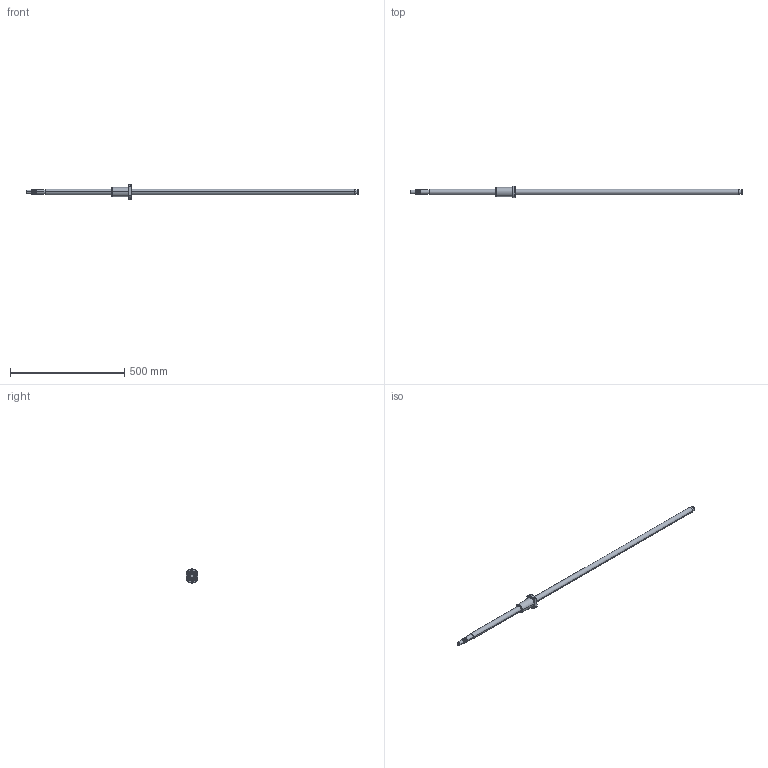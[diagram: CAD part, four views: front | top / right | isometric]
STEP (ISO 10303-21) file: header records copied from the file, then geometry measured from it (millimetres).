
FILE_DESCRIPTION (( 'STEP AP214' ), '1' );
FILE_NAME ('7.3003 STNUR2510-1450mm.STEP', '2026-02-03T12:18:57', ( '' ), ( '' ), 'SwSTEP 2.0', 'SolidWorks 2025', '' );
FILE_SCHEMA (( 'AUTOMOTIVE_DESIGN' ));
Length unit declared in the file: millimetre
Products named in the file (3): Kuularuuvimutteri STNUR2510; 7.3003 STNUR2510-1450mm
Assembly tree (2 placements, depth 2):
  7.3003 STNUR2510-1450mm
    7.3003 STNUR2510-1450mm
    Kuularuuvimutteri STNUR2510
Bounding box: 1450 x 51.99 x 61.97 mm (x, y, z)
Surface area: 129799.6 mm2 (no closed solid volume)
Topology: 0 solids, 4 shells, 104 faces, 282 edges, 186 vertices
Faces by surface type: cylinder 71, plane 15, cone 9, bspline 9
Entity records: 8000 total; most frequent: CARTESIAN_POINT 4382, ORIENTED_EDGE 544, DIRECTION 459, EDGE_CURVE 282, VERTEX_POINT 186, AXIS2_PLACEMENT_3D 179, EDGE_LOOP 124, UNCERTAINTY_MEASURE_WITH_UNIT 109
